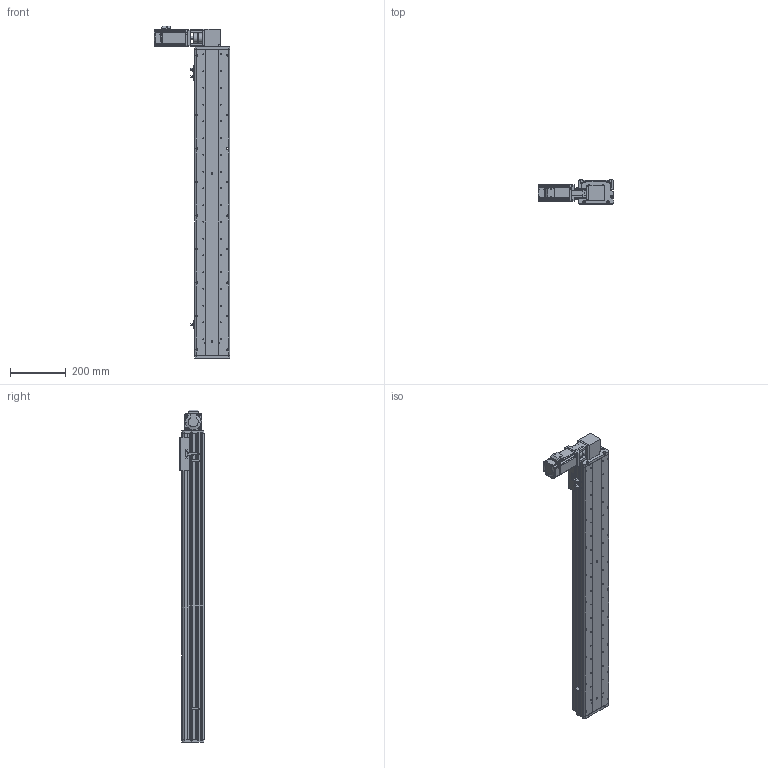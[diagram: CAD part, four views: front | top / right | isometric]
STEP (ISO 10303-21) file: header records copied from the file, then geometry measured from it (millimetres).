
FILE_DESCRIPTION (( 'STEP AP214' ), '1' );
FILE_NAME ('KSD125B-S900-MRT-CM.STEP', '2017-08-07T07:32:43', ( '微软用户' ), ( '微软中国' ), 'SwSTEP 2.0', 'SolidWorks 2014', '' );
FILE_SCHEMA (( 'AUTOMOTIVE_DESIGN' ));
Length unit declared in the file: millimetre
Products named in the file (16): KSD125模组同步带-防撞垫2; CS-34X32-10X14; 100遵鎮湛假蚾啣1 ; 覜茼え68遵圉猾敕; U倰嫖萇假蚾璃; U倰嫖萇EEㄜSX672; KSD125模组同步带-防撞垫1; 100宽安装板同步带带电机座400W,86; 100宽马达安装板同步带右; 前端板-125宽模组同步带; 125模组同步带-尾端板1; KSD125模组同步带-滑动座1; KSD125B-S900-MRT-CM; KSD125模组900行程同步带-防尘盖; 125模组900行程同步带-底板; MHMD042G1CA_2_03
Assembly tree (19 placements, depth 2):
  KSD125B-S900-MRT-CM
    KSD125模组同步带-滑动座1
    125模组同步带-尾端板1
    前端板-125宽模组同步带
    100宽马达安装板同步带右
    100宽安装板同步带带电机座400W,86
    KSD125模组同步带-防撞垫1
    U倰嫖萇EEㄜSX672  x3
    U倰嫖萇假蚾璃  x3
    覜茼え68遵圉猾敕
    100遵鎮湛假蚾啣1 
    CS-34X32-10X14
    KSD125模组同步带-防撞垫2
    MHMD042G1CA_2_03
    125模组900行程同步带-底板
    KSD125模组900行程同步带-防尘盖
Bounding box: 269 x 86 x 1189 mm (x, y, z)
Volume: 3643969.7 mm3; surface area: 1203043.2 mm2
Topology: 18 solids, 21 shells, 1700 faces, 4876 edges, 3216 vertices
Faces by surface type: cylinder 893, plane 704, cone 81, bspline 22
Entity records: 59868 total; most frequent: CARTESIAN_POINT 12086, DIRECTION 8763, ORIENTED_EDGE 8272, EDGE_CURVE 4214, AXIS2_PLACEMENT_3D 3261, VERTEX_POINT 2808, VECTOR 2241, LINE 2241
